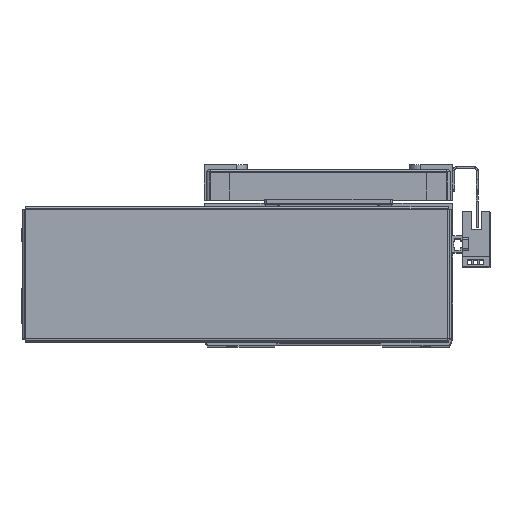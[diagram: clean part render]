
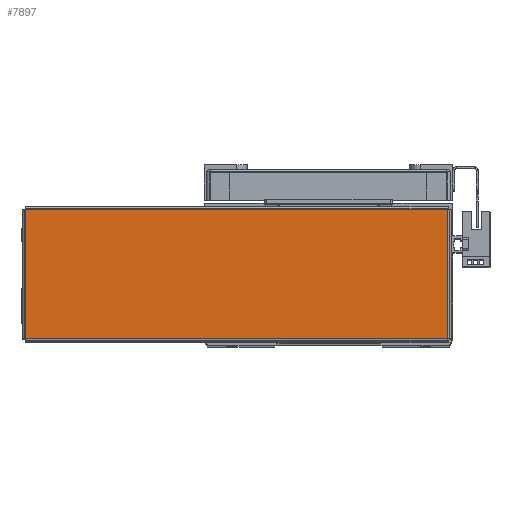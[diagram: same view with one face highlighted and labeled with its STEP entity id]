
A CAD part, top view. The second image highlights one B-rep face of the part: STEP entity #7897.
In plain terms, the highlighted planar face has unit normal (0, 0, 1) as drawn and (0, -1, 0) by its records, which use the part's own axes.
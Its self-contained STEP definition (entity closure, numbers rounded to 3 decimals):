
#2314 = FACE_OUTER_BOUND ( 'NONE', #14322, .T. ) ;
#7897 = ADVANCED_FACE ( 'NONE', ( #2314 ), #39474, .F. ) ;
#14322 = EDGE_LOOP ( 'NONE', ( #43474, #43432, #43467, #43437 ) ) ;
#18369 = EDGE_CURVE ( 'NONE', #45341, #45393, #34842, .T. ) ;
#18431 = EDGE_CURVE ( 'NONE', #45338, #45341, #34984, .T. ) ;
#18440 = EDGE_CURVE ( 'NONE', #45388, #45338, #34949, .T. ) ;
#18479 = EDGE_CURVE ( 'NONE', #45393, #45388, #34915, .T. ) ;
#19167 = CARTESIAN_POINT ( 'NONE',  ( -103.763, -1., 31.793 ) ) ;
#19212 = DIRECTION ( 'NONE',  ( 0., 0., -1. ) ) ;
#19554 = DIRECTION ( 'NONE',  ( -1., 0., 0. ) ) ;
#19601 = CARTESIAN_POINT ( 'NONE',  ( 103.763, -1., -31.793 ) ) ;
#19620 = CARTESIAN_POINT ( 'NONE',  ( 103.793, -1., 31.763 ) ) ;
#19628 = DIRECTION ( 'NONE',  ( 0., 0., 1. ) ) ;
#19636 = DIRECTION ( 'NONE',  ( 1., 0., 0. ) ) ;
#19681 = CARTESIAN_POINT ( 'NONE',  ( -103.793, -1., -31.763 ) ) ;
#34842 = LINE ( 'NONE', #19167, #34851 ) ;
#34851 = VECTOR ( 'NONE', #19212, 1000. ) ;
#34915 = LINE ( 'NONE', #19681, #34920 ) ;
#34920 = VECTOR ( 'NONE', #19636, 1000. ) ;
#34949 = LINE ( 'NONE', #19601, #34978 ) ;
#34975 = VECTOR ( 'NONE', #19554, 1000. ) ;
#34978 = VECTOR ( 'NONE', #19628, 1000. ) ;
#34984 = LINE ( 'NONE', #19620, #34975 ) ;
#36273 = AXIS2_PLACEMENT_3D ( 'NONE', #39487, #39478, #39480 ) ;
#39474 = PLANE ( 'NONE',  #36273 ) ;
#39478 = DIRECTION ( 'NONE',  ( 0., 1., 0. ) ) ;
#39480 = DIRECTION ( 'NONE',  ( 0., 0., 1. ) ) ;
#39487 = CARTESIAN_POINT ( 'NONE',  ( 0., -1., 0. ) ) ;
#43432 = ORIENTED_EDGE ( 'NONE', *, *, #18369, .T. ) ;
#43437 = ORIENTED_EDGE ( 'NONE', *, *, #18440, .T. ) ;
#43467 = ORIENTED_EDGE ( 'NONE', *, *, #18479, .T. ) ;
#43474 = ORIENTED_EDGE ( 'NONE', *, *, #18431, .T. ) ;
#45338 = VERTEX_POINT ( 'NONE', #51858 ) ;
#45341 = VERTEX_POINT ( 'NONE', #51891 ) ;
#45388 = VERTEX_POINT ( 'NONE', #51934 ) ;
#45393 = VERTEX_POINT ( 'NONE', #51874 ) ;
#51858 = CARTESIAN_POINT ( 'NONE',  ( 103.763, -1., 31.763 ) ) ;
#51874 = CARTESIAN_POINT ( 'NONE',  ( -103.763, -1., -31.763 ) ) ;
#51891 = CARTESIAN_POINT ( 'NONE',  ( -103.763, -1., 31.763 ) ) ;
#51934 = CARTESIAN_POINT ( 'NONE',  ( 103.763, -1., -31.763 ) ) ;
